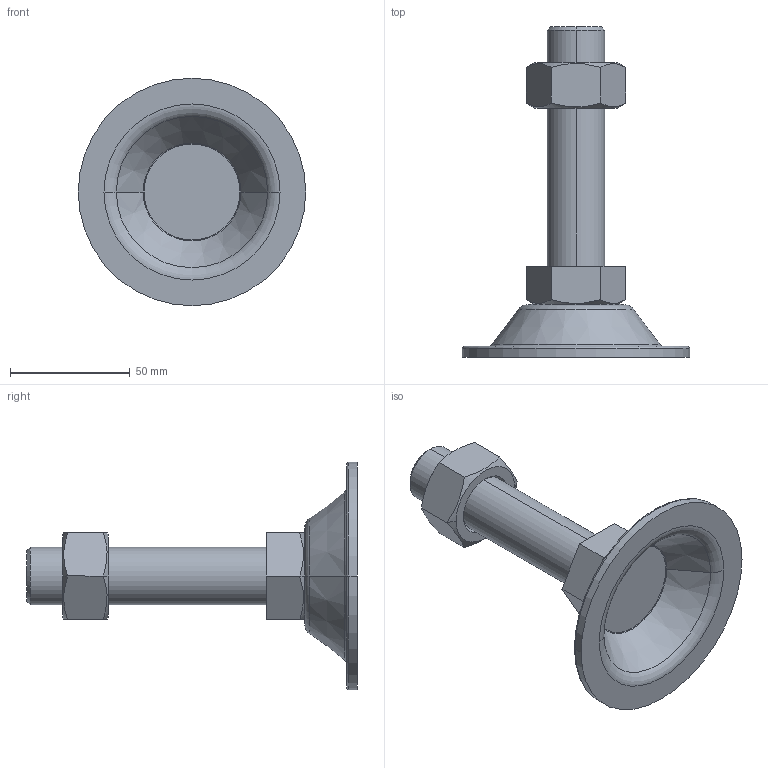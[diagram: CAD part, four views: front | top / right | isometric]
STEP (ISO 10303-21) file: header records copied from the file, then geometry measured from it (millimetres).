
FILE_DESCRIPTION (( 'STEP AP214' ), '1' );
FILE_NAME ('BL95-M24-100.step', '2021-01-06T05:42:05', ( '' ), ( '' ), 'SwSTEP 2.0', 'SolidWorks 2019', '' );
FILE_SCHEMA (( 'AUTOMOTIVE_DESIGN' ));
Length unit declared in the file: millimetre
Products named in the file (1): BL95-M24-100
Bounding box: 95 x 138 x 95 mm (x, y, z)
Volume: 113746.5 mm3; surface area: 34760.8 mm2
Topology: 3 solids, 3 shells, 53 faces, 110 edges, 66 vertices
Faces by surface type: plane 21, cone 16, torus 10, cylinder 6
Entity records: 1654 total; most frequent: CARTESIAN_POINT 464, DIRECTION 252, ORIENTED_EDGE 220, EDGE_CURVE 110, AXIS2_PLACEMENT_3D 106, VERTEX_POINT 66, EDGE_LOOP 58, ADVANCED_FACE 53
